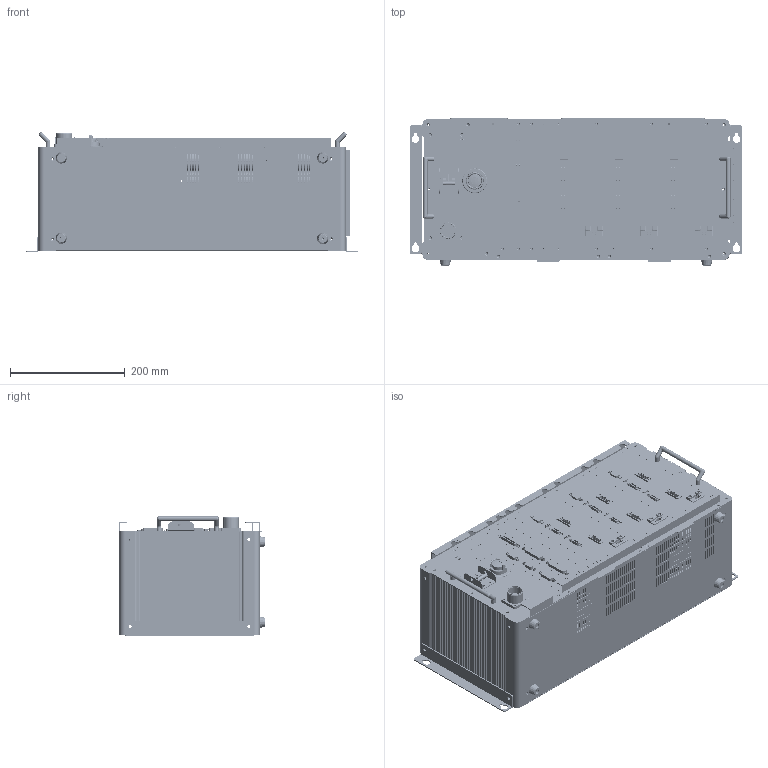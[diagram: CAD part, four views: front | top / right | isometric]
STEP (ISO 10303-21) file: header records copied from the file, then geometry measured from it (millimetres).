
FILE_DESCRIPTION((''),'2;1');
FILE_NAME('ASSY-6AXIS_ASM','2014-09-03T',('cwpark'),(''),'PRO/ENGINEER BY PARAMETRIC TECHNOLOGY CORPORATION, 2011490','PRO/ENGINEER BY PARAMETRIC TECHNOLOGY CORPORATION, 2011490','');
FILE_SCHEMA(('CONFIG_CONTROL_DESIGN'));
Products named in the file (69): COVER-SIDE-LEFT; COVER-SIDE-RIGHT; PANEL-BACK-6CASE; COVER-BOTTOM-6AXIS; PCB-GUIDE-TOP-6AXIS; PCB-GUIDE-BOTTOM-6CASE; PANEL-FRONT-RIGHT-6CASE; COVER-TOP; BKT-FAN-6AXIS; BKT-FAN-B-AXIS; FAN-60MM-6AXIS; N1-COVER-PCB-SERVO-46AXIS; RCQ-SV-MAIN; SERVO-MAIN-CONNECTOR-1; SERVO-MAIN-CONNECTOR-4; SERVO-MAIN-CONNECTOR-2; SERVO-MAIN-CONNECTOR-3; ASSY-PCB-SERVO-MAIN_ASM; RCQ-SV_POWER; SERVO-POWER-CONNECTOR-1; SERVO-POWER-CONNECTOR-2; ASSY-PCB-SERVO-POWER_ASM; ASSY-PCBS-SERVO_ASM; NI-COVER-MAIN-46AXIS; PCB_MAIN_CON; CON-MAIN-; CON-MAIN-9PIN; CON-MAIN-15PIN; CON-PCB-MAIN-A; WINDOW-SEGEMENT; ASSY-NI-COVER-MAIN-46AXIS_ASM; PCB_6AXIS_BACKPLANE; CONNECTOR-A; CONNECTOR-C; CONNECTOR-D; CONNECTOR-B; ASSY-PCB_6AXIS_BACKPLANE_ASM; CASE-FILTER-6AXIS; COVER-FILTER; POWER_20A_COVER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
Assembly tree (97 placements, depth 4):
  ASSY-6AXIS_ASM
    COVER-SIDE-LEFT
    COVER-SIDE-RIGHT
    PANEL-BACK-6CASE
    COVER-BOTTOM-6AXIS
    PCB-GUIDE-TOP-6AXIS
    PCB-GUIDE-BOTTOM-6CASE
    PANEL-FRONT-RIGHT-6CASE
    COVER-TOP
    BKT-FAN-6AXIS
    BKT-FAN-B-AXIS
    FAN-60MM-6AXIS  x4
    ASSY-PCBS-SERVO_ASM  x3
      N1-COVER-PCB-SERVO-46AXIS
      ASSY-PCB-SERVO-MAIN_ASM
        RCQ-SV-MAIN
        SERVO-MAIN-CONNECTOR-1
        SERVO-MAIN-CONNECTOR-4  x2
        SERVO-MAIN-CONNECTOR-2
        SERVO-MAIN-CONNECTOR-3  x2
      ASSY-PCB-SERVO-POWER_ASM
        RCQ-SV_POWER
        SERVO-POWER-CONNECTOR-1  x2
        SERVO-POWER-CONNECTOR-2
    ASSY-NI-COVER-MAIN-46AXIS_ASM
      NI-COVER-MAIN-46AXIS
      PCB_MAIN_CON
      CON-MAIN-
      CON-MAIN-9PIN
      CON-MAIN-15PIN
      CON-PCB-MAIN-A
      WINDOW-SEGEMENT
    ASSY-PCB_6AXIS_BACKPLANE_ASM
      PCB_6AXIS_BACKPLANE
      CONNECTOR-A
      CONNECTOR-C  x4
      CONNECTOR-D  x4
      CONNECTOR-B  x3
    CASE-FILTER-6AXIS  x2
    COVER-FILTER  x2
    POWER_20A_ASM
      POWER_20A_COVER
      SWITCH-EMERGENCY-6AXIS
      ASSY-PCB-EQUIP_BOARD_ASM
        PCB-EQUIP_BOARD
        SERVO-MAIN-CONNECTOR-1
        SERVO-POWER-CONNECTOR-2
        LED2
        20A_BRK
      HANDLE222
    0710170_ASM  x3
      DFK-MSTB_2_5-2-GF-5_08-84880_ASM
        DFK-MSTB_2_5-2-GF-5_08-82260
    CIRCUIT_PROTECTOR_ASSY_ASM
      CIRCUIT_PROTECTOR_AF0
      CIRCUIT_PROTECTOR_AF1
      LEVER_AF0
      BRACKET_WALL
    POWER_CONNECTOR_MS3102A_18
    HANDLE222
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Bounding box: 578.8 x 256.2 x 208.2 mm (x, y, z)
Volume: 2796779.5 mm3; surface area: 2821966.3 mm2
Topology: 178 solids, 178 shells, 18118 faces, 48777 edges, 32206 vertices
Faces by surface type: plane 9956, cylinder 7626, cone 240, torus 168, bspline 70, sphere 58
Entity records: 402769 total; most frequent: CARTESIAN_POINT 71152, DIRECTION 69610, ORIENTED_EDGE 67212, EDGE_CURVE 33606, AXIS2_PLACEMENT_3D 23728, VERTEX_POINT 22230, VECTOR 22154, LINE 22154
